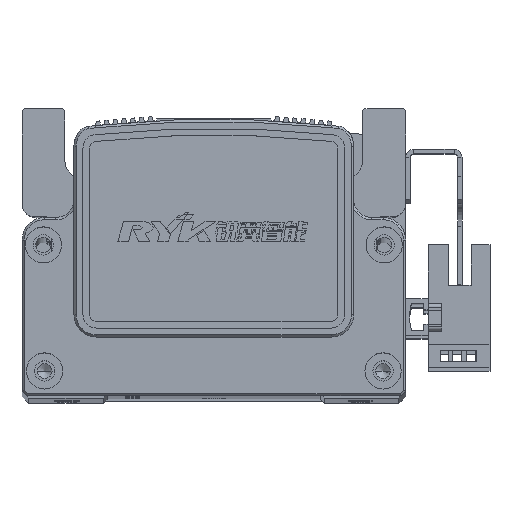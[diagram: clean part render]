
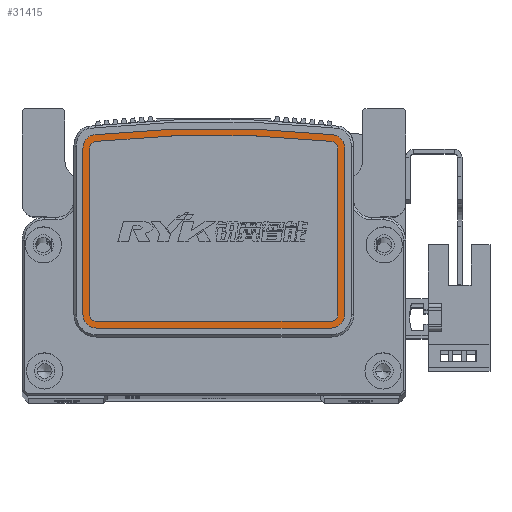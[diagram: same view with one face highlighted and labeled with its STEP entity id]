
A CAD part, top view. The second image highlights one B-rep face of the part: STEP entity #31415.
In plain terms, the highlighted planar face has unit normal (0, 0, 1) as drawn and (1, 0, 0) by its records, which use the part's own axes.
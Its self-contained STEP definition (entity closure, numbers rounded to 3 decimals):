
#6498 = CARTESIAN_POINT ( 'NONE',  ( 9., -17., -26. ) ) ;
#6500 = DIRECTION ( 'NONE',  ( 1., 0., 0. ) ) ;
#6509 = DIRECTION ( 'NONE',  ( 0., 0., -1. ) ) ;
#6516 = CARTESIAN_POINT ( 'NONE',  ( 9., -17., -29. ) ) ;
#6524 = DIRECTION ( 'NONE',  ( 0., 0., -1. ) ) ;
#6527 = DIRECTION ( 'NONE',  ( 0., 1., 0. ) ) ;
#6528 = CARTESIAN_POINT ( 'NONE',  ( 9., 19.871, 29. ) ) ;
#6532 = CARTESIAN_POINT ( 'NONE',  ( 9., -20., 26. ) ) ;
#6535 = DIRECTION ( 'NONE',  ( 0., -1., 0. ) ) ;
#6614 = DIRECTION ( 'NONE',  ( 0., 0., -1. ) ) ;
#6616 = CARTESIAN_POINT ( 'NONE',  ( 9., -222.049, 0. ) ) ;
#6636 = DIRECTION ( 'NONE',  ( 1., 0., 0. ) ) ;
#6693 = DIRECTION ( 'NONE',  ( 1., 0., 0. ) ) ;
#6697 = DIRECTION ( 'NONE',  ( 0., 0., -1. ) ) ;
#6700 = CARTESIAN_POINT ( 'NONE',  ( 9., -17., 26. ) ) ;
#11425 = AXIS2_PLACEMENT_3D ( 'NONE', #26424, #26439, #26457 ) ;
#19361 = VERTEX_POINT ( 'NONE', #28207 ) ;
#19377 = VERTEX_POINT ( 'NONE', #28209 ) ;
#19399 = VERTEX_POINT ( 'NONE', #28188 ) ;
#19407 = VERTEX_POINT ( 'NONE', #28151 ) ;
#19419 = VERTEX_POINT ( 'NONE', #28162 ) ;
#19429 = VERTEX_POINT ( 'NONE', #28183 ) ;
#19449 = VERTEX_POINT ( 'NONE', #28270 ) ;
#19455 = VERTEX_POINT ( 'NONE', #28312 ) ;
#19461 = VERTEX_POINT ( 'NONE', #28332 ) ;
#19469 = VERTEX_POINT ( 'NONE', #28295 ) ;
#19485 = VERTEX_POINT ( 'NONE', #28262 ) ;
#19501 = VERTEX_POINT ( 'NONE', #28338 ) ;
#19527 = VERTEX_POINT ( 'NONE', #28275 ) ;
#19545 = VERTEX_POINT ( 'NONE', #28251 ) ;
#19563 = VERTEX_POINT ( 'NONE', #28403 ) ;
#20139 = EDGE_LOOP ( 'NONE', ( #46925, #46961, #46904, #46923, #46900, #46965, #46945, #46941 ) ) ;
#20147 = EDGE_LOOP ( 'NONE', ( #46838, #46840, #46830, #46927, #46863, #46844, #46960, #46973 ) ) ;
#21118 = VERTEX_POINT ( 'NONE', #25145 ) ;
#25145 = CARTESIAN_POINT ( 'NONE',  ( 9., 21.363, 26.16 ) ) ;
#25923 = PLANE ( 'NONE',  #11425 ) ;
#26424 = CARTESIAN_POINT ( 'NONE',  ( 9., 19.871, 26. ) ) ;
#26439 = DIRECTION ( 'NONE',  ( 1., 0., 0. ) ) ;
#26457 = DIRECTION ( 'NONE',  ( 0., 0., -1. ) ) ;
#28151 = CARTESIAN_POINT ( 'NONE',  ( 9., -18.5, 26. ) ) ;
#28162 = CARTESIAN_POINT ( 'NONE',  ( 9., 19.871, 27.5 ) ) ;
#28183 = CARTESIAN_POINT ( 'NONE',  ( 9., 21.363, -26.16 ) ) ;
#28188 = CARTESIAN_POINT ( 'NONE',  ( 9., -20., -26. ) ) ;
#28207 = CARTESIAN_POINT ( 'NONE',  ( 9., -17., -27.5 ) ) ;
#28209 = CARTESIAN_POINT ( 'NONE',  ( 9., -18.5, -26. ) ) ;
#28251 = CARTESIAN_POINT ( 'NONE',  ( 9., -20., 26. ) ) ;
#28262 = CARTESIAN_POINT ( 'NONE',  ( 9., 22.854, -26.321 ) ) ;
#28270 = CARTESIAN_POINT ( 'NONE',  ( 9., 19.871, -27.5 ) ) ;
#28275 = CARTESIAN_POINT ( 'NONE',  ( 9., 19.871, -29. ) ) ;
#28295 = CARTESIAN_POINT ( 'NONE',  ( 9., 22.854, 26.321 ) ) ;
#28312 = CARTESIAN_POINT ( 'NONE',  ( 9., -17., 27.5 ) ) ;
#28332 = CARTESIAN_POINT ( 'NONE',  ( 9., -17., -29. ) ) ;
#28338 = CARTESIAN_POINT ( 'NONE',  ( 9., -17., 29. ) ) ;
#28403 = CARTESIAN_POINT ( 'NONE',  ( 9., 19.871, 29. ) ) ;
#31415 = ADVANCED_FACE ( 'NONE', ( #44981, #45000 ), #25923, .T. ) ;
#33671 = CIRCLE ( 'NONE', #44464, 244.813 ) ;
#33872 = LINE ( 'NONE', #42809, #34007 ) ;
#34007 = VECTOR ( 'NONE', #42810, 1000. ) ;
#34082 = CIRCLE ( 'NONE', #44451, 1.5 ) ;
#34127 = CIRCLE ( 'NONE', #44457, 1.5 ) ;
#34142 = CIRCLE ( 'NONE', #44447, 1.5 ) ;
#34178 = VECTOR ( 'NONE', #42835, 1000. ) ;
#34196 = LINE ( 'NONE', #42860, #34178 ) ;
#34265 = LINE ( 'NONE', #42981, #34301 ) ;
#34301 = VECTOR ( 'NONE', #42982, 1000. ) ;
#34340 = CIRCLE ( 'NONE', #44509, 1.5 ) ;
#34451 = CIRCLE ( 'NONE', #44520, 3. ) ;
#34562 = CIRCLE ( 'NONE', #44489, 3. ) ;
#34646 = LINE ( 'NONE', #6528, #34780 ) ;
#34679 = CIRCLE ( 'NONE', #44494, 3. ) ;
#34682 = VECTOR ( 'NONE', #6527, 1000. ) ;
#34724 = LINE ( 'NONE', #6516, #34682 ) ;
#34780 = VECTOR ( 'NONE', #6535, 1000. ) ;
#34801 = VECTOR ( 'NONE', #6524, 1000. ) ;
#34825 = LINE ( 'NONE', #6532, #34801 ) ;
#34846 = CIRCLE ( 'NONE', #44487, 3. ) ;
#34927 = CIRCLE ( 'NONE', #44538, 246.313 ) ;
#42739 = DIRECTION ( 'NONE',  ( 0., 0., 1. ) ) ;
#42756 = CARTESIAN_POINT ( 'NONE',  ( 9., -222.049, 0. ) ) ;
#42778 = DIRECTION ( 'NONE',  ( 1., 0., 0. ) ) ;
#42809 = CARTESIAN_POINT ( 'NONE',  ( 9., 19.871, -27.5 ) ) ;
#42810 = DIRECTION ( 'NONE',  ( 0., 1., 0. ) ) ;
#42835 = DIRECTION ( 'NONE',  ( 0., 0., -1. ) ) ;
#42860 = CARTESIAN_POINT ( 'NONE',  ( 9., -18.5, 26. ) ) ;
#42876 = DIRECTION ( 'NONE',  ( 1., 0., 0. ) ) ;
#42895 = CARTESIAN_POINT ( 'NONE',  ( 9., 19.871, -26. ) ) ;
#42906 = DIRECTION ( 'NONE',  ( 0., 0., 1. ) ) ;
#42909 = CARTESIAN_POINT ( 'NONE',  ( 9., -17., -26. ) ) ;
#42939 = DIRECTION ( 'NONE',  ( 1., 0., 0. ) ) ;
#42941 = DIRECTION ( 'NONE',  ( 0., 0., 1. ) ) ;
#42956 = DIRECTION ( 'NONE',  ( 1., 0., 0. ) ) ;
#42969 = CARTESIAN_POINT ( 'NONE',  ( 9., 19.871, 26. ) ) ;
#42981 = CARTESIAN_POINT ( 'NONE',  ( 9., 19.871, 27.5 ) ) ;
#42982 = DIRECTION ( 'NONE',  ( 0., -1., 0. ) ) ;
#42993 = DIRECTION ( 'NONE',  ( 0., 0., 1. ) ) ;
#43003 = DIRECTION ( 'NONE',  ( 1., 0., 0. ) ) ;
#43022 = DIRECTION ( 'NONE',  ( 0., 0., 1. ) ) ;
#43073 = CARTESIAN_POINT ( 'NONE',  ( 9., -17., 26. ) ) ;
#43257 = CARTESIAN_POINT ( 'NONE',  ( 9., 19.871, 26. ) ) ;
#43325 = DIRECTION ( 'NONE',  ( 1., 0., 0. ) ) ;
#43332 = DIRECTION ( 'NONE',  ( 0., 0., 1. ) ) ;
#43344 = DIRECTION ( 'NONE',  ( 1., 0., 0. ) ) ;
#43345 = DIRECTION ( 'NONE',  ( 0., 0., -1. ) ) ;
#43365 = CARTESIAN_POINT ( 'NONE',  ( 9., 19.871, -26. ) ) ;
#44447 = AXIS2_PLACEMENT_3D ( 'NONE', #42895, #42876, #42906 ) ;
#44451 = AXIS2_PLACEMENT_3D ( 'NONE', #42909, #42939, #42941 ) ;
#44457 = AXIS2_PLACEMENT_3D ( 'NONE', #42969, #42956, #42993 ) ;
#44464 = AXIS2_PLACEMENT_3D ( 'NONE', #42756, #42778, #42739 ) ;
#44487 = AXIS2_PLACEMENT_3D ( 'NONE', #6700, #6693, #6697 ) ;
#44489 = AXIS2_PLACEMENT_3D ( 'NONE', #43257, #43325, #43332 ) ;
#44494 = AXIS2_PLACEMENT_3D ( 'NONE', #6498, #6500, #6509 ) ;
#44509 = AXIS2_PLACEMENT_3D ( 'NONE', #43073, #43003, #43022 ) ;
#44520 = AXIS2_PLACEMENT_3D ( 'NONE', #43365, #43344, #43345 ) ;
#44538 = AXIS2_PLACEMENT_3D ( 'NONE', #6616, #6636, #6614 ) ;
#44981 = FACE_BOUND ( 'NONE', #20147, .T. ) ;
#45000 = FACE_OUTER_BOUND ( 'NONE', #20139, .T. ) ;
#46491 = EDGE_CURVE ( 'NONE', #19429, #21118, #33671, .T. ) ;
#46515 = EDGE_CURVE ( 'NONE', #19361, #19449, #33872, .T. ) ;
#46536 = EDGE_CURVE ( 'NONE', #19407, #19377, #34196, .T. ) ;
#46541 = EDGE_CURVE ( 'NONE', #19449, #19429, #34142, .T. ) ;
#46567 = EDGE_CURVE ( 'NONE', #19377, #19361, #34082, .T. ) ;
#46573 = EDGE_CURVE ( 'NONE', #21118, #19419, #34127, .T. ) ;
#46583 = EDGE_CURVE ( 'NONE', #19419, #19455, #34265, .T. ) ;
#46589 = EDGE_CURVE ( 'NONE', #19455, #19407, #34340, .T. ) ;
#46637 = EDGE_CURVE ( 'NONE', #19469, #19563, #34562, .T. ) ;
#46648 = EDGE_CURVE ( 'NONE', #19527, #19485, #34451, .T. ) ;
#46685 = EDGE_CURVE ( 'NONE', #19563, #19501, #34646, .T. ) ;
#46687 = EDGE_CURVE ( 'NONE', #19545, #19399, #34825, .T. ) ;
#46690 = EDGE_CURVE ( 'NONE', #19399, #19461, #34679, .T. ) ;
#46691 = EDGE_CURVE ( 'NONE', #19461, #19527, #34724, .T. ) ;
#46714 = EDGE_CURVE ( 'NONE', #19485, #19469, #34927, .T. ) ;
#46725 = EDGE_CURVE ( 'NONE', #19501, #19545, #34846, .T. ) ;
#46830 = ORIENTED_EDGE ( 'NONE', *, *, #46515, .F. ) ;
#46838 = ORIENTED_EDGE ( 'NONE', *, *, #46491, .F. ) ;
#46840 = ORIENTED_EDGE ( 'NONE', *, *, #46541, .F. ) ;
#46844 = ORIENTED_EDGE ( 'NONE', *, *, #46589, .F. ) ;
#46863 = ORIENTED_EDGE ( 'NONE', *, *, #46536, .F. ) ;
#46900 = ORIENTED_EDGE ( 'NONE', *, *, #46690, .T. ) ;
#46904 = ORIENTED_EDGE ( 'NONE', *, *, #46725, .T. ) ;
#46923 = ORIENTED_EDGE ( 'NONE', *, *, #46687, .T. ) ;
#46925 = ORIENTED_EDGE ( 'NONE', *, *, #46637, .T. ) ;
#46927 = ORIENTED_EDGE ( 'NONE', *, *, #46567, .F. ) ;
#46941 = ORIENTED_EDGE ( 'NONE', *, *, #46714, .T. ) ;
#46945 = ORIENTED_EDGE ( 'NONE', *, *, #46648, .T. ) ;
#46960 = ORIENTED_EDGE ( 'NONE', *, *, #46583, .F. ) ;
#46961 = ORIENTED_EDGE ( 'NONE', *, *, #46685, .T. ) ;
#46965 = ORIENTED_EDGE ( 'NONE', *, *, #46691, .T. ) ;
#46973 = ORIENTED_EDGE ( 'NONE', *, *, #46573, .F. ) ;
